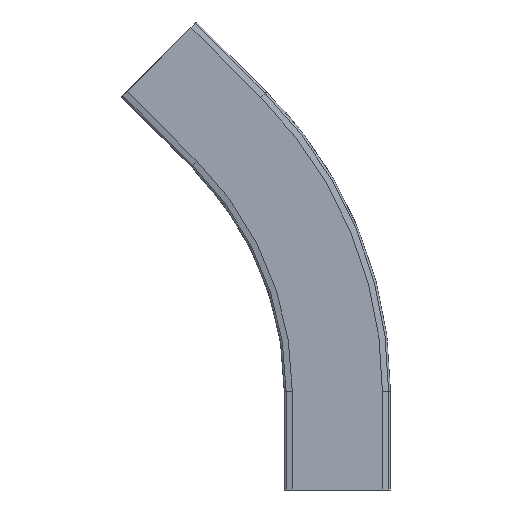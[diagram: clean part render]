
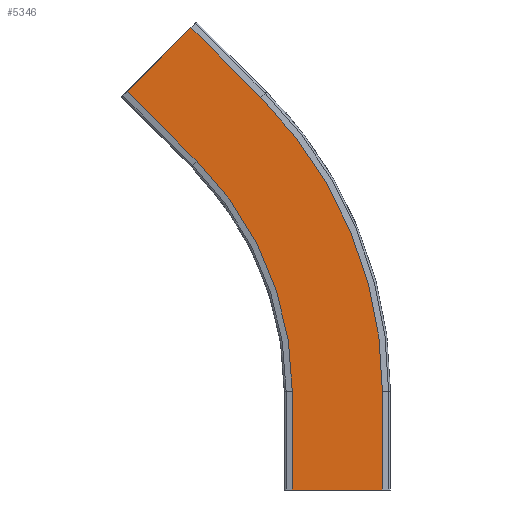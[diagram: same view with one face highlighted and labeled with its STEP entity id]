
A CAD part, front view. The second image highlights one B-rep face of the part: STEP entity #5346.
In plain terms, the highlighted planar face has unit normal (0, -1, 0).
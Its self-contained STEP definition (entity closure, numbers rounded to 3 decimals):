
#4977=CARTESIAN_POINT('',(36.5,-11.,0.0));
#4978=VERTEX_POINT('',#4977);
#4985=CARTESIAN_POINT('',(-36.5,-11.,0.0));
#4986=VERTEX_POINT('',#4985);
#4987=CARTESIAN_POINT('',(-36.5,-11.,0.0));
#4988=DIRECTION('',(1.0,0.0,0.0));
#4989=VECTOR('',#4988,73.);
#4990=LINE('',#4987,#4989);
#4991=EDGE_CURVE('',#4986,#4978,#4990,.T.);
#5057=CARTESIAN_POINT('',(-36.5,-11.,80.0));
#5058=VERTEX_POINT('',#5057);
#5072=CARTESIAN_POINT('',(-36.5,-11.,0.0));
#5073=DIRECTION('',(0.0,0.0,1.0));
#5074=VECTOR('',#5073,80.0);
#5075=LINE('',#5072,#5074);
#5076=EDGE_CURVE('',#4986,#5058,#5075,.T.);
#5086=CARTESIAN_POINT('',(36.5,-11.,80.0));
#5087=VERTEX_POINT('',#5086);
#5096=CARTESIAN_POINT('',(36.5,-11.,0.0));
#5097=DIRECTION('',(0.0,0.0,1.0));
#5098=VECTOR('',#5097,80.0);
#5099=LINE('',#5096,#5098);
#5100=EDGE_CURVE('',#4978,#5087,#5099,.T.);
#5173=CARTESIAN_POINT('',(-62.059,-11.,317.941));
#5174=VERTEX_POINT('',#5173);
#5183=CARTESIAN_POINT('',(-300.0,-11.,80.0));
#5184=DIRECTION('',(0.0,-1.0,0.0));
#5185=DIRECTION('',(1.0,0.0,0.0));
#5186=AXIS2_PLACEMENT_3D('',#5183,#5184,#5185);
#5187=CIRCLE('',#5186,336.5);
#5188=EDGE_CURVE('',#5087,#5174,#5187,.T.);
#5240=CARTESIAN_POINT('',(-113.677,-11.,266.323));
#5241=VERTEX_POINT('',#5240);
#5256=CARTESIAN_POINT('',(-300.0,-11.,80.0));
#5257=DIRECTION('',(0.0,-1.0,0.0));
#5258=DIRECTION('',(1.0,0.0,0.0));
#5259=AXIS2_PLACEMENT_3D('',#5256,#5257,#5258);
#5260=CIRCLE('',#5259,263.5);
#5261=EDGE_CURVE('',#5058,#5241,#5260,.T.);
#5300=CARTESIAN_POINT('',(-170.246,-11.,322.891));
#5301=VERTEX_POINT('',#5300);
#5310=CARTESIAN_POINT('',(-113.677,-11.,266.323));
#5311=DIRECTION('',(-0.707,0.,0.707));
#5312=VECTOR('',#5311,80.);
#5313=LINE('',#5310,#5312);
#5314=EDGE_CURVE('',#5241,#5301,#5313,.T.);
#5319=CARTESIAN_POINT('',(161.118,-11.,94.765));
#5320=DIRECTION('',(0.0,-1.0,0.0));
#5321=DIRECTION('',(0.707,0.0,-0.707));
#5322=AXIS2_PLACEMENT_3D('',#5319,#5320,#5321);
#5323=PLANE('',#5322);
#5324=CARTESIAN_POINT('',(-118.627,-11.,374.51));
#5325=VERTEX_POINT('',#5324);
#5326=CARTESIAN_POINT('',(-118.627,-11.,374.51));
#5327=DIRECTION('',(-0.707,0.,-0.707));
#5328=VECTOR('',#5327,73.);
#5329=LINE('',#5326,#5328);
#5330=EDGE_CURVE('',#5325,#5301,#5329,.T.);
#5331=ORIENTED_EDGE('',*,*,#5330,.T.);
#5332=ORIENTED_EDGE('',*,*,#5314,.F.);
#5333=ORIENTED_EDGE('',*,*,#5261,.F.);
#5334=ORIENTED_EDGE('',*,*,#5076,.F.);
#5335=ORIENTED_EDGE('',*,*,#4991,.T.);
#5336=ORIENTED_EDGE('',*,*,#5100,.T.);
#5337=ORIENTED_EDGE('',*,*,#5188,.T.);
#5338=CARTESIAN_POINT('',(-62.059,-11.,317.941));
#5339=DIRECTION('',(-0.707,0.,0.707));
#5340=VECTOR('',#5339,80.);
#5341=LINE('',#5338,#5340);
#5342=EDGE_CURVE('',#5174,#5325,#5341,.T.);
#5343=ORIENTED_EDGE('',*,*,#5342,.T.);
#5344=EDGE_LOOP('',(#5331,#5332,#5333,#5334,#5335,#5336,#5337,#5343));
#5345=FACE_OUTER_BOUND('',#5344,.T.);
#5346=ADVANCED_FACE('',(#5345),#5323,.T.);
